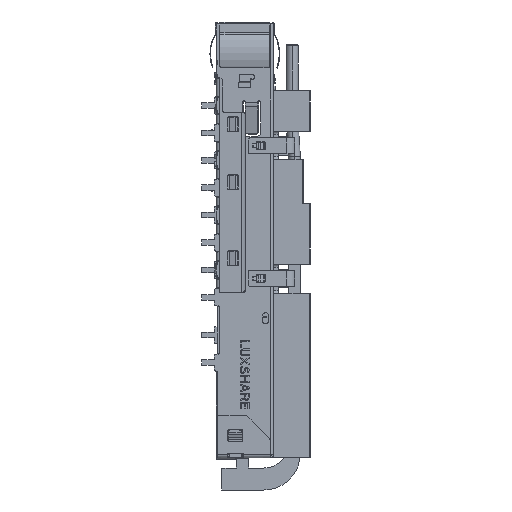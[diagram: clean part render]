
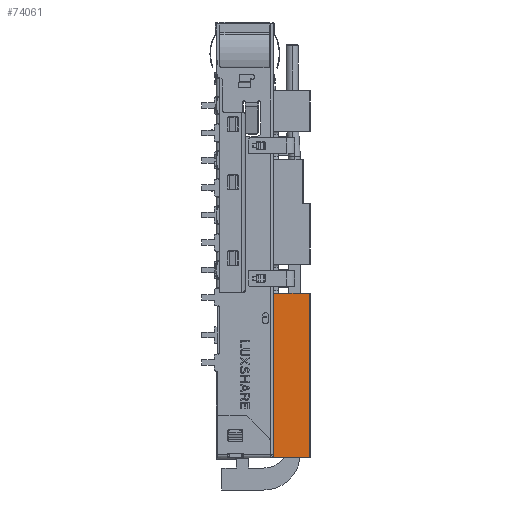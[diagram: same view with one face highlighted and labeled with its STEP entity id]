
A CAD part, left-side view. The second image highlights one B-rep face of the part: STEP entity #74061.
In plain terms, the highlighted planar face has unit normal (-1, 0, 0).
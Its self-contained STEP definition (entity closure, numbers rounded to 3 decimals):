
#18930=DIRECTION('',(0.,-1.,0.));
#18931=VECTOR('',#18930,5.9);
#18932=CARTESIAN_POINT('',(-1.353,0.,-71.175));
#18933=LINE('',#18932,#18931);
#19086=DIRECTION('',(0.,-1.,0.));
#19087=VECTOR('',#19086,5.9);
#19088=CARTESIAN_POINT('',(-1.353,0.,-44.25));
#19089=LINE('',#19088,#19087);
#19090=DIRECTION('',(0.,0.,1.));
#19091=VECTOR('',#19090,26.925);
#19092=CARTESIAN_POINT('',(-1.353,0.,-71.175));
#19093=LINE('',#19092,#19091);
#19094=DIRECTION('',(0.,0.,1.));
#19095=VECTOR('',#19094,26.925);
#19096=CARTESIAN_POINT('',(-1.353,-5.9,-71.175));
#19097=LINE('',#19096,#19095);
#47857=CARTESIAN_POINT('',(-1.353,0.,-44.25));
#47858=CARTESIAN_POINT('',(-1.353,-5.9,-44.25));
#47859=VERTEX_POINT('',#47857);
#47860=VERTEX_POINT('',#47858);
#47881=CARTESIAN_POINT('',(-1.353,0.,-71.175));
#47882=VERTEX_POINT('',#47881);
#47999=CARTESIAN_POINT('',(-1.353,-5.9,-71.175));
#48000=VERTEX_POINT('',#47999);
#74049=CARTESIAN_POINT('',(-1.353,-2.95,-57.713));
#74050=DIRECTION('',(1.,0.,0.));
#74051=DIRECTION('',(0.,-1.,0.));
#74052=AXIS2_PLACEMENT_3D('',#74049,#74050,#74051);
#74053=PLANE('',#74052);
#74054=ORIENTED_EDGE('',*,*,#73879,.T.);
#74056=ORIENTED_EDGE('',*,*,#74055,.F.);
#74057=ORIENTED_EDGE('',*,*,#73930,.F.);
#74058=ORIENTED_EDGE('',*,*,#69679,.T.);
#74059=EDGE_LOOP('',(#74054,#74056,#74057,#74058));
#74060=FACE_OUTER_BOUND('',#74059,.F.);
#74061=ADVANCED_FACE('',(#74060),#74053,.F.);
#69679=EDGE_CURVE('',#47882,#47859,#19093,.T.);
#73879=EDGE_CURVE('',#47859,#47860,#19089,.T.);
#73930=EDGE_CURVE('',#47882,#48000,#18933,.T.);
#74055=EDGE_CURVE('',#48000,#47860,#19097,.T.);
